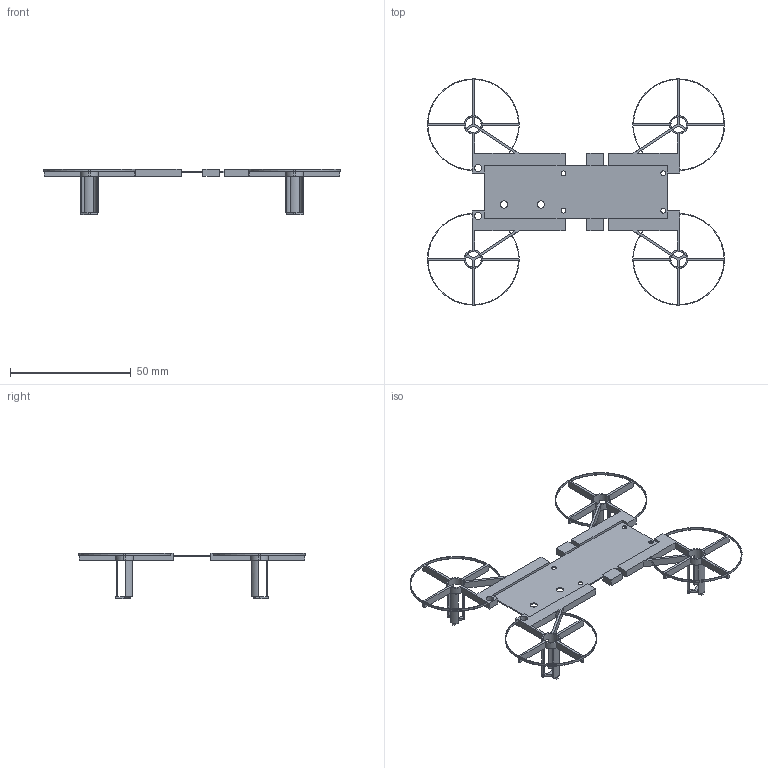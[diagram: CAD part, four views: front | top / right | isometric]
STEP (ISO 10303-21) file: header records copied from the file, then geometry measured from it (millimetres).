
FILE_DESCRIPTION(/* description */ ('STEP AP242 Edition 2','CAx-IF Rec.Pracs.---Representation and Presentation of Product Manufacturing Information (PMI)---4.0---2014-10-13','CAx-IF Rec.Pracs.---3D Tessellated Geometry---0.4---2014-09-14','2;1','CAx-IF Rec.Pracs.---User Defined Attributes---1.5---2016-08-15'),/* implementation_level */ '2;1');
FILE_NAME(/* name */ 'Drone Layout - Part 1 (1)',/* time_stamp */ '2026-10-04T22:22:49Z',/* author */ (''),/* organization */ (''),/* preprocessor_version */ 'ST-DEVELOPER v20',/* originating_system */ 'ONSHAPE BY PTC INC, 1.221',/* authorisation */ ' ');
FILE_SCHEMA (('AP242_MANAGED_MODEL_BASED_3D_ENGINEERING_MIM_LF { 1 0 10303 442 3 1 4 }'));
Length unit declared in the file: metre
Products named in the file (1): Part 1
Bounding box: 122.99 x 93.66 x 19 mm (x, y, z)
Volume: 4649.2 mm3; surface area: 11463.8 mm2
Topology: 1 solids, 1 shells, 326 faces, 972 edges, 616 vertices
Faces by surface type: plane 226, cylinder 100
Full cylindrical faces by diameter (mm): 2 x4, 3 x4, 6.5 x4
Entity records: 10974 total; most frequent: ORIENTED_EDGE 1912, CARTESIAN_POINT 1895, DIRECTION 1894, EDGE_CURVE 956, LINE 672, VECTOR 672, VERTEX_POINT 612, AXIS2_PLACEMENT_3D 611
